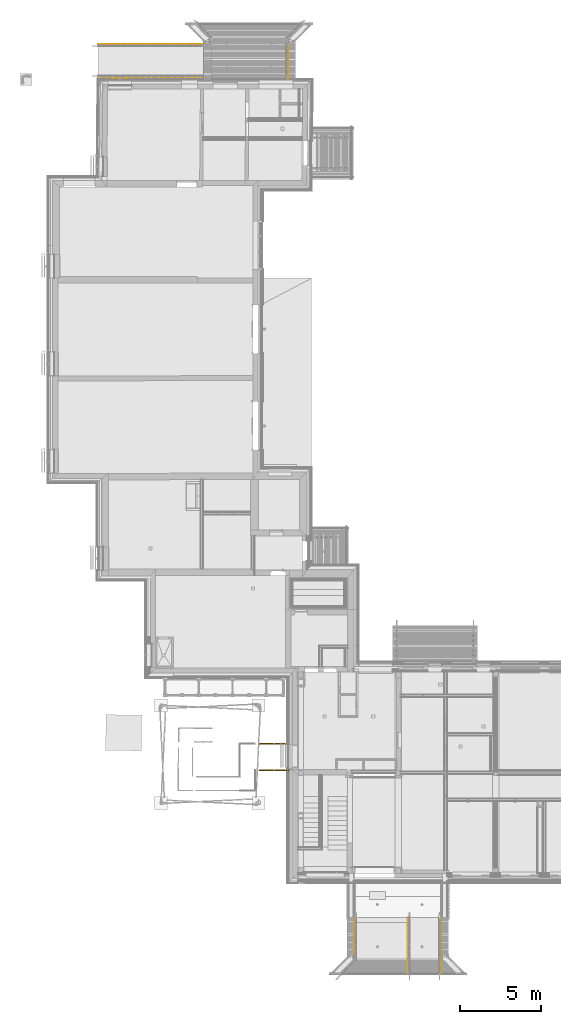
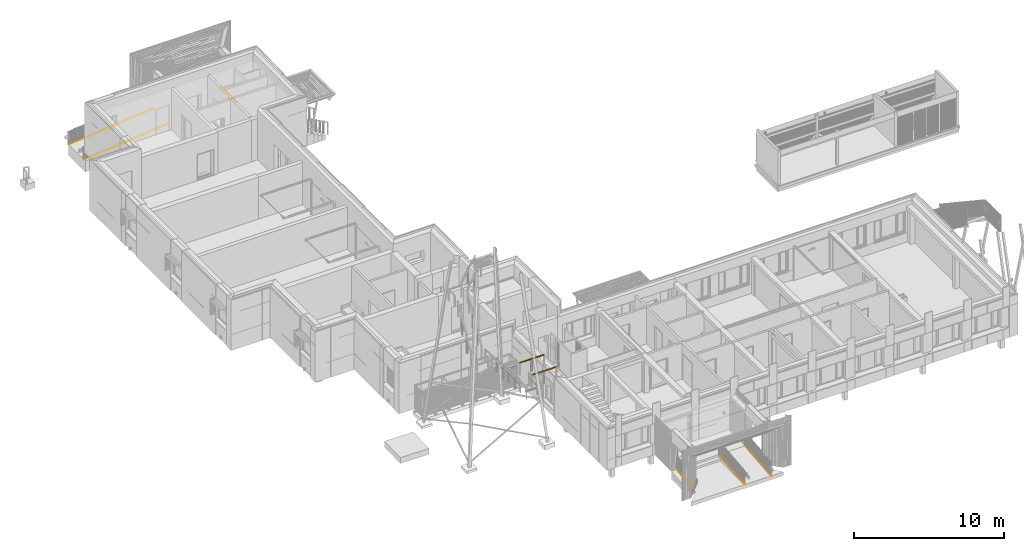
# One storey, part 154 of 418: 9 railings, 2 elements without a shape of their own.
"""IFC2X3 building model written with IfcOpenShell, lengths in millimetres."""

from ifc_helpers import new_model, entity, si_unit, converted_unit, derived_unit, money_unit, direction, frame, origin_with_axes, place, context, subcontext, project, spatial, polyline, outline, extrude, faceted_brep, source, transform, mapped, material, type_object, element, aggregate, save


model = new_model("IFC2X3")

# Units and contexts
model_context = context("Model", 3, precision=0.01, world=origin_with_axes(), true_north=direction((0.0, 1.0)))
body_context = subcontext(model_context, "Body", "Model", "MODEL_VIEW")
ifc_project = project(units=[si_unit("LENGTHUNIT", "METRE", prefix="MILLI"), si_unit("AREAUNIT", "SQUARE_METRE"), si_unit("VOLUMEUNIT", "CUBIC_METRE"), converted_unit("PLANEANGLEUNIT", "DEGREE", entity("IfcPlaneAngleMeasure", 0.0174532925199), si_unit("PLANEANGLEUNIT", "RADIAN"), dimensions=[0, 0, 0, 0, 0, 0, 0]), si_unit("SOLIDANGLEUNIT", "STERADIAN"), money_unit("EUR"), converted_unit("TIMEUNIT", "Year", entity("IfcTimeMeasure", 31556926.0), si_unit("TIMEUNIT", "SECOND"), dimensions=[0, 0, 1, 0, 0, 0, 0]), si_unit("MASSUNIT", "GRAM", prefix="KILO"), si_unit("THERMODYNAMICTEMPERATUREUNIT", "DEGREE_CELSIUS"), si_unit("LUMINOUSINTENSITYUNIT", "LUMEN"), si_unit("ENERGYUNIT", "JOULE", prefix="MEGA"), derived_unit("THERMALCONDUCTANCEUNIT", [(si_unit("POWERUNIT", "WATT"), 1), (si_unit("LENGTHUNIT", "METRE"), -1), (si_unit("THERMODYNAMICTEMPERATUREUNIT", "KELVIN"), -1)]), derived_unit("SPECIFICHEATCAPACITYUNIT", [(si_unit("ENERGYUNIT", "JOULE"), 1), (si_unit("MASSUNIT", "GRAM", prefix="KILO"), -1), (si_unit("THERMODYNAMICTEMPERATUREUNIT", "KELVIN"), -1)]), derived_unit("MASSDENSITYUNIT", [(si_unit("MASSUNIT", "GRAM", prefix="KILO"), 1), (si_unit("VOLUMEUNIT", "CUBIC_METRE"), -1)])], contexts=[model_context])

# Site, building, storey
site_placement = place(None, origin_with_axes())
site = spatial("IfcSite", under=ifc_project, at=site_placement, Name="Paldiski mnt 245/1, Tallinn, Harjumaa", CompositionType="COMPLEX")
building_placement = place(site_placement, origin_with_axes())
building = spatial("IfcBuilding", under=site, at=building_placement, Name="RKAS Hoone üldnimetus (kasutust iseloomustav) -> IFC Project Manager -> SOLIBRI", CompositionType="ELEMENT")
storey_placement = place(building_placement, origin_with_axes())
storey = spatial("IfcBuildingStorey", under=building, at=storey_placement, Name="Esimene korrus", CompositionType="ELEMENT", Elevation=0.0)

# Railings
ifc_material_1 = material(Name="ET-05_Teras")
railing_type_1 = type_object("IfcRailingType", Name="ET-05_Teras 10", PredefinedType="NOTDEFINED")
railing_1_placement = place(storey_placement, frame((-59923.2887744, 36469.8286725, -670.351943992), z_axis=(0.0, 0.0, 1.0), x_axis=(0.0, 1.0, 0.0)))
element("IfcRailing", 1, at=railing_1_placement, inside=storey, type_object=railing_type_1, material=ifc_material_1, Name="Trepipiire", PredefinedType="NOTDEFINED", context=body_context, shape_type="SweptSolid", body=[
    extrude(outline(polyline([(49.9999999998, -6535.95617042), (50.0, 0.0), (0.0, 0.0), (-1.77609692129e-10, -6535.95617042), (49.9999999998, -6535.95617042)])), frame((0.0, 0.0, 0.0), z_axis=(0.0, 0.099503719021, 0.99503719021), x_axis=(1.0, 0.0, 0.0)), (0.0, -0.099503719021, 0.99503719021), 10.0116328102),
])
railing_2_placement = place(storey_placement, frame((-59923.2887744, 38489.7311931, -670.351943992), z_axis=(0.0, 0.0, 1.0), x_axis=(0.0, 1.0, 0.0)))
element("IfcRailing", 2, at=railing_2_placement, inside=storey, type_object=railing_type_1, material=ifc_material_1, Name="Trepipiire", PredefinedType="NOTDEFINED", context=body_context, shape_type="SweptSolid", body=[
    extrude(outline(polyline([(-2.06025986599e-10, -6535.95617042), (49.9999999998, -6535.95617042), (50.0, 0.0), (0.0, 0.0), (-2.06025986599e-10, -6535.95617042)])), frame((0.0, 0.0, 0.0), z_axis=(0.0, 0.099503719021, 0.99503719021), x_axis=(1.0, 0.0, 0.0)), (0.0, -0.099503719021, 0.99503719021), 10.0116328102),
])
ifc_material_2 = material(Name="RAL7016")
railing_type_2 = type_object("IfcRailingType", Name="RAL7016 10", PredefinedType="NOTDEFINED")
railing_3_placement = place(storey_placement, frame((-40861.8703625, -18705.4792804, -367.539497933), z_axis=(0.0, 0.0, 1.0), x_axis=(1.0, 0.0, 0.0)))
element("IfcRailing", 3, at=railing_3_placement, inside=storey, type_object=railing_type_2, material=ifc_material_2, Name="Trepiire", PredefinedType="NOTDEFINED", context=body_context, shape_type="SweptSolid", body=[
    extrude(outline(polyline([(0.0, 0.0), (50.0, 0.0), (50.0000000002, 3492.72872765), (1.91795873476e-10, 3492.72872765), (0.0, 0.0)])), frame((0.0, 0.0, 0.0), z_axis=(0.0, -0.099503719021, 0.99503719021), x_axis=(1.0, 0.0, 0.0)), (0.0, 0.099503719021, 0.99503719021), 10.0116328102),
])
railing_4_placement = place(storey_placement, frame((-38840.9992191, -18705.4792804, -367.539497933), z_axis=(0.0, 0.0, 1.0), x_axis=(1.0, 0.0, 0.0)))
element("IfcRailing", 4, at=railing_4_placement, inside=storey, type_object=railing_type_2, material=ifc_material_2, Name="Trepiire", PredefinedType="NOTDEFINED", context=body_context, shape_type="SweptSolid", body=[
    extrude(outline(polyline([(50.0, 0.0), (50.0, 3492.72872765), (0.0, 3492.72872765), (0.0, 0.0), (50.0, 0.0)])), frame((0.0, 0.0, 0.0), z_axis=(0.0, -0.099503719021, 0.99503719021), x_axis=(1.0, 0.0, 0.0)), (0.0, 0.099503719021, 0.99503719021), 10.0116328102),
])
railing_5_placement = place(storey_placement, frame((-38840.9992191, -18705.4792804, -367.539497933), z_axis=(0.0, 0.0, 1.0), x_axis=(1.0, 0.0, 0.0)))
element("IfcRailing", 5, at=railing_5_placement, inside=storey, type_object=railing_type_2, material=ifc_material_2, Name="Trepiire", PredefinedType="NOTDEFINED", context=body_context, shape_type="SweptSolid", body=[
    extrude(outline(polyline([(0.0, 0.0), (50.0, 0.0), (50.0000000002, 3492.72872765), (1.84688419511e-10, 3492.72872765), (0.0, 0.0)])), frame((0.0, 0.0, 0.0), z_axis=(0.0, -0.099503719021, 0.99503719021), x_axis=(1.0, 0.0, 0.0)), (0.0, 0.099503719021, 0.99503719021), 10.0116328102),
])
railing_6_placement = place(storey_placement, frame((-48195.2840938, 38165.8287493, -20.4452703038), z_axis=(0.0, 0.0, 1.0), x_axis=(-1.0, 0.0, 0.0)))
element("IfcRailing", 6, at=railing_6_placement, inside=storey, type_object=railing_type_2, material=ifc_material_2, Name="Trepipiire", PredefinedType="NOTDEFINED", context=body_context, shape_type="SweptSolid", body=[
    extrude(outline(polyline([(0.0, -310.471862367), (50.0, -310.471862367), (50.0, 1801.00002492), (0.0, 1801.00002492), (0.0, -310.471862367)])), origin_with_axes(), (0.0, 0.0, 1.0), 9.96194698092),
])
railing_7_placement = place(storey_placement, frame((-44169.0000164, -17500.9104944, -247.29490051), z_axis=(0.0, 0.0, 1.0), x_axis=(1.0, 0.0, 0.0)))
element("IfcRailing", 7, at=railing_7_placement, inside=storey, type_object=railing_type_2, material=ifc_material_2, Name="Trepiire", PredefinedType="NOTDEFINED", context=body_context, shape_type="SweptSolid", body=[
    extrude(outline(polyline([(0.0, 0.0), (50.0, 0.0), (50.0000000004, 2209.79297511), (4.403475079e-10, 2209.79297511), (0.0, 0.0)])), frame((0.0, 0.0, 0.0), z_axis=(0.0, -0.099503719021, 0.99503719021), x_axis=(1.0, 0.0, 0.0)), (0.0, 0.099503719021, 0.99503719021), 10.0116328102),
])

railing_type_3 = type_object("IfcRailingType", Name="Railing Type", PredefinedType="NOTDEFINED")
railing_8_placement = place(storey_placement, frame((-48119.0152059, -4525.08408706, 3300.0), z_axis=(0.0, 0.0, 1.0), x_axis=(-0.773149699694, -0.634223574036, 0.0)))
railing_8 = element("IfcRailing", 8, at=railing_8_placement, inside=storey, type_object=railing_type_3, Name="PIIRE", PredefinedType="NOTDEFINED")
ifc_material_3 = material(Name="ET-07_Teras - Roostevaba")
railing_type_4 = type_object("IfcRailingType", Name="IfcRailing", PredefinedType="GUARDRAIL")
shared_shape = source(origin_with_axes(), body_context, "Body", "Brep", [
    faceted_brep([(0.0, 25.0, 1000.0), (0.0, 25.0, 950.0), (-1882.71274726, 25.0, 950.0), (-1882.71274726, 25.0, 1000.0), (0.0, -25.0, 1000.0), (0.0, -25.0, 950.0), (0.0, 15.0, 990.0), (0.0, 15.0, 960.0), (0.0, -15.0, 960.0), (0.0, -15.0, 990.0), (-1882.71274726, -25.0, 950.0), (-1882.71274726, -25.0, 1000.0), (-1882.71274726, 15.0, 990.0), (-1882.71274726, -15.0, 990.0), (-1882.71274726, -15.0, 960.0), (-1882.71274726, 15.0, 960.0)], [[[0, 1, 2, 3]], [[0, 4, 5, 1], [6, 7, 8, 9]], [[1, 5, 10, 2]], [[3, 2, 10, 11], [12, 13, 14, 15]], [[4, 0, 3, 11]], [[5, 4, 11, 10]], [[7, 6, 12, 15]], [[8, 7, 15, 14]], [[9, 8, 14, 13]], [[6, 9, 13, 12]]]),
])
railing_9_placement = place(railing_8_placement, frame((750.136337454, -615.345448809, 844.098300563), z_axis=(0.0, 0.0, 1.0), x_axis=(-0.773149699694, 0.634223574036, 0.0)))
railing_9 = element("IfcRailing", 9, at=railing_9_placement, type_object=railing_type_4, material=ifc_material_3, Name="Piirde Ülaosa - 001", PredefinedType="GUARDRAIL", context=body_context, shape_type="MappedRepresentation", body=[
    mapped(shared_shape, transform((941.356373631, 0.0, -944.098300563))),
])
aggregate(railing_8, [railing_9])

railing_10_placement = place(storey_placement, frame((-48119.0152059, -6155.24631697, 3300.0), z_axis=(0.0, 0.0, 1.0), x_axis=(-0.773149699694, -0.634223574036, 0.0)))
railing_10 = element("IfcRailing", 10, at=railing_10_placement, inside=storey, type_object=railing_type_3, Name="PIIRE", PredefinedType="NOTDEFINED")
railing_11_placement = place(railing_10_placement, frame((750.136337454, -615.345448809, 844.098300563), z_axis=(0.0, 0.0, 1.0), x_axis=(-0.773149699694, 0.634223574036, 0.0)))
railing_11 = element("IfcRailing", 11, at=railing_11_placement, type_object=railing_type_4, material=ifc_material_3, Name="Piirde Ülaosa - 001", PredefinedType="GUARDRAIL", context=body_context, shape_type="MappedRepresentation", body=[
    mapped(shared_shape, transform((941.356373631, 0.0, -944.098300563))),
])
aggregate(railing_10, [railing_11])

save(model, "model.ifc")
